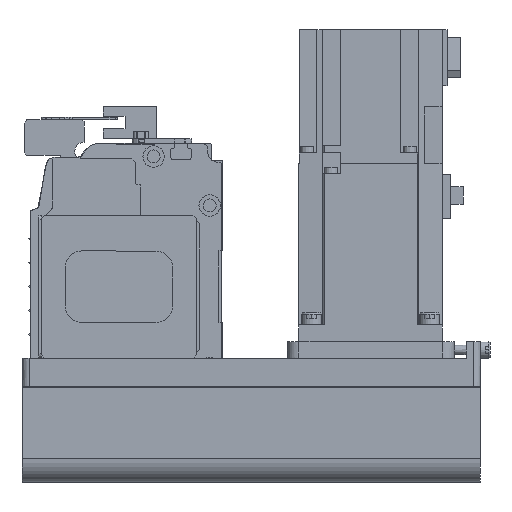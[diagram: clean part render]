
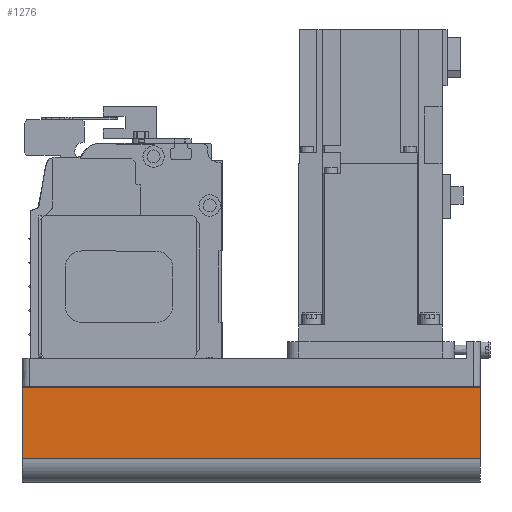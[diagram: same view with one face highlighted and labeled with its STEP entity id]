
A CAD part, left-side view. The second image highlights one B-rep face of the part: STEP entity #1276.
In plain terms, the highlighted planar face has unit normal (-1, 0, 0) as drawn and (0, 1, 0) by its records, which use the part's own axes.
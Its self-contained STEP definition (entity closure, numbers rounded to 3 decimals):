
#1276 = ADVANCED_FACE( '', ( #3094 ), #3095, .T. );
#3094 = FACE_OUTER_BOUND( '', #5654, .T. );
#3095 = PLANE( '', #5655 );
#5654 = EDGE_LOOP( '', ( #9134, #9135, #9136, #9137 ) );
#5655 = AXIS2_PLACEMENT_3D( '', #9138, #9139, #9140 );
#9134 = ORIENTED_EDGE( '', *, *, #15167, .F. );
#9135 = ORIENTED_EDGE( '', *, *, #15168, .F. );
#9136 = ORIENTED_EDGE( '', *, *, #15169, .T. );
#9137 = ORIENTED_EDGE( '', *, *, #14431, .T. );
#9138 = CARTESIAN_POINT( '', ( -192., 40., -42. ) );
#9139 = DIRECTION( '', ( 0., 1., 0. ) );
#9140 = DIRECTION( '', ( 0., 0., 1. ) );
#14431 = EDGE_CURVE( '', #17111, #17112, #17113, .T. );
#15167 = EDGE_CURVE( '', #18358, #17112, #18359, .T. );
#15168 = EDGE_CURVE( '', #18360, #18358, #18361, .T. );
#15169 = EDGE_CURVE( '', #18360, #17111, #18362, .T. );
#17111 = VERTEX_POINT( '', #20984 );
#17112 = VERTEX_POINT( '', #20985 );
#17113 = LINE( '', #20986, #20987 );
#18358 = VERTEX_POINT( '', #22650 );
#18359 = LINE( '', #22651, #22652 );
#18360 = VERTEX_POINT( '', #22653 );
#18361 = LINE( '', #22654, #22655 );
#18362 = LINE( '', #22656, #22657 );
#20984 = CARTESIAN_POINT( '', ( -192., 40., -12.1 ) );
#20985 = CARTESIAN_POINT( '', ( 0., 40., -12.1 ) );
#20986 = CARTESIAN_POINT( '', ( -192., 40., -12.1 ) );
#20987 = VECTOR( '', #25864, 1000. );
#22650 = CARTESIAN_POINT( '', ( 0., 40., -42. ) );
#22651 = CARTESIAN_POINT( '', ( 0., 40., -42. ) );
#22652 = VECTOR( '', #26796, 1000. );
#22653 = CARTESIAN_POINT( '', ( -192., 40., -42. ) );
#22654 = CARTESIAN_POINT( '', ( -192., 40., -42. ) );
#22655 = VECTOR( '', #26797, 1000. );
#22656 = CARTESIAN_POINT( '', ( -192., 40., -42. ) );
#22657 = VECTOR( '', #26798, 1000. );
#25864 = DIRECTION( '', ( 1., 0., 0. ) );
#26796 = DIRECTION( '', ( 0., 0., 1. ) );
#26797 = DIRECTION( '', ( 1., 0., 0. ) );
#26798 = DIRECTION( '', ( 0., 0., 1. ) );
